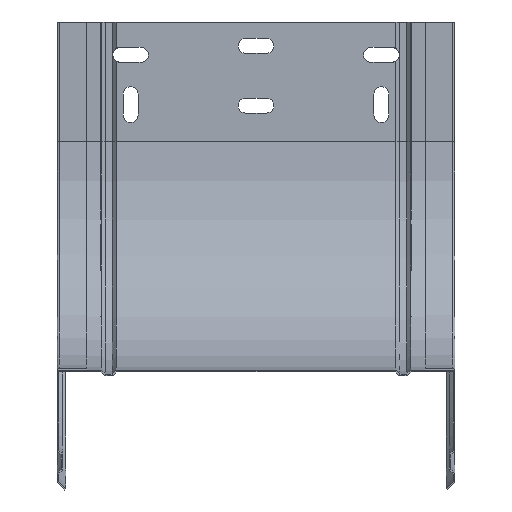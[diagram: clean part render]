
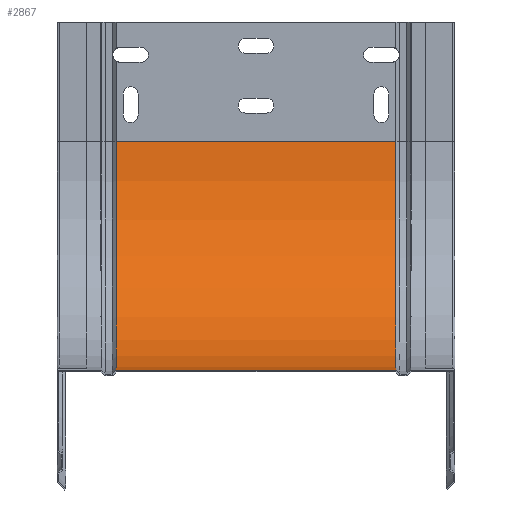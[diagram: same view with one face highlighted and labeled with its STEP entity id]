
A CAD part, front view. The second image highlights one B-rep face of the part: STEP entity #2867.
In plain terms, the highlighted cylindrical face has radius 115 mm (diameter 230 mm), a partial arc.
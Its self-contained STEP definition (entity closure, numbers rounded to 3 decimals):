
#123 = AXIS2_PLACEMENT_3D ( 'NONE', #3489, #2169, #3608 ) ;
#147 = CARTESIAN_POINT ( 'NONE',  ( -70.331, -115., -60. ) ) ;
#208 = CIRCLE ( 'NONE', #4423, 115. ) ;
#217 = CARTESIAN_POINT ( 'NONE',  ( -70.331, -115., -175. ) ) ;
#510 = DIRECTION ( 'NONE',  ( 1., 0., 0. ) ) ;
#663 = CYLINDRICAL_SURFACE ( 'NONE', #5090, 115. ) ;
#1380 = CARTESIAN_POINT ( 'NONE',  ( -70.331, -115., -175. ) ) ;
#1433 = ORIENTED_EDGE ( 'NONE', *, *, #5442, .T. ) ;
#1452 = ORIENTED_EDGE ( 'NONE', *, *, #3210, .T. ) ;
#1534 = DIRECTION ( 'NONE',  ( 0., 0., 1. ) ) ;
#1621 = CARTESIAN_POINT ( 'NONE',  ( 70.331, -115., -175. ) ) ;
#1697 = VECTOR ( 'NONE', #510, 1000. ) ;
#1784 = DIRECTION ( 'NONE',  ( 1., 0., 0. ) ) ;
#1959 = DIRECTION ( 'NONE',  ( -1., 0., 0. ) ) ;
#2120 = ORIENTED_EDGE ( 'NONE', *, *, #3868, .F. ) ;
#2138 = VERTEX_POINT ( 'NONE', #217 ) ;
#2169 = DIRECTION ( 'NONE',  ( -1., 0., 0. ) ) ;
#2175 = LINE ( 'NONE', #5402, #3002 ) ;
#2867 = ADVANCED_FACE ( 'NONE', ( #4240 ), #663, .F. ) ;
#3002 = VECTOR ( 'NONE', #1784, 1000. ) ;
#3084 = VERTEX_POINT ( 'NONE', #4441 ) ;
#3210 = EDGE_CURVE ( 'NONE', #4885, #2138, #208, .T. ) ;
#3489 = CARTESIAN_POINT ( 'NONE',  ( 70.331, -115., -60. ) ) ;
#3608 = DIRECTION ( 'NONE',  ( 0., 0., 1. ) ) ;
#3651 = DIRECTION ( 'NONE',  ( -1., 0., 0. ) ) ;
#3868 = EDGE_CURVE ( 'NONE', #3084, #5695, #5007, .T. ) ;
#4113 = LINE ( 'NONE', #1380, #1697 ) ;
#4240 = FACE_OUTER_BOUND ( 'NONE', #4248, .T. ) ;
#4248 = EDGE_LOOP ( 'NONE', ( #5276, #1452, #1433, #2120 ) ) ;
#4398 = EDGE_CURVE ( 'NONE', #4885, #3084, #2175, .T. ) ;
#4423 = AXIS2_PLACEMENT_3D ( 'NONE', #147, #3651, #5032 ) ;
#4441 = CARTESIAN_POINT ( 'NONE',  ( 70.331, 0., -60. ) ) ;
#4776 = CARTESIAN_POINT ( 'NONE',  ( 0., -115., -60. ) ) ;
#4885 = VERTEX_POINT ( 'NONE', #5360 ) ;
#5007 = CIRCLE ( 'NONE', #123, 115. ) ;
#5032 = DIRECTION ( 'NONE',  ( 0., 0., 1. ) ) ;
#5090 = AXIS2_PLACEMENT_3D ( 'NONE', #4776, #1959, #1534 ) ;
#5276 = ORIENTED_EDGE ( 'NONE', *, *, #4398, .F. ) ;
#5360 = CARTESIAN_POINT ( 'NONE',  ( -70.331, 0., -60. ) ) ;
#5402 = CARTESIAN_POINT ( 'NONE',  ( -70.331, 0., -60. ) ) ;
#5442 = EDGE_CURVE ( 'NONE', #2138, #5695, #4113, .T. ) ;
#5695 = VERTEX_POINT ( 'NONE', #1621 ) ;
